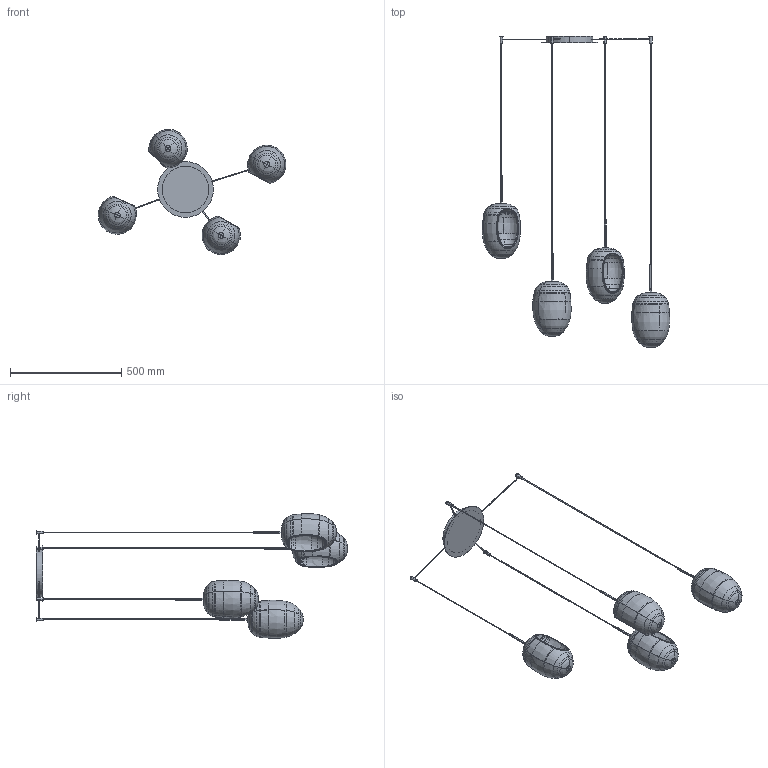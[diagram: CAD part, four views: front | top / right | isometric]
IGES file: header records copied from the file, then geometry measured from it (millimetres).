
Start section: SolidWorks IGES file using analytic representation for surfaces
Global section: file name: Y:\eforma\TECNICO\SOLIDWORKS\E-FORMA\09-LAMPADE\FOS\02 parts\FOS04_4 sospensione.IGS; native system: SolidWorks 2022; preprocessor: SolidWorks 2022; author: eforma.tech; date: 250519.091254; units: millimetre
Bounding box: 842.8 x 1400.54 x 562.53 mm (x, y, z)
Volume: 2694757.6 mm3; surface area: 1425481 mm2
Topology: 41 solids, 41 shells, 926 faces, 2215 edges, 1364 vertices
Faces by surface type: revolution 595, plane 243, bspline 88
